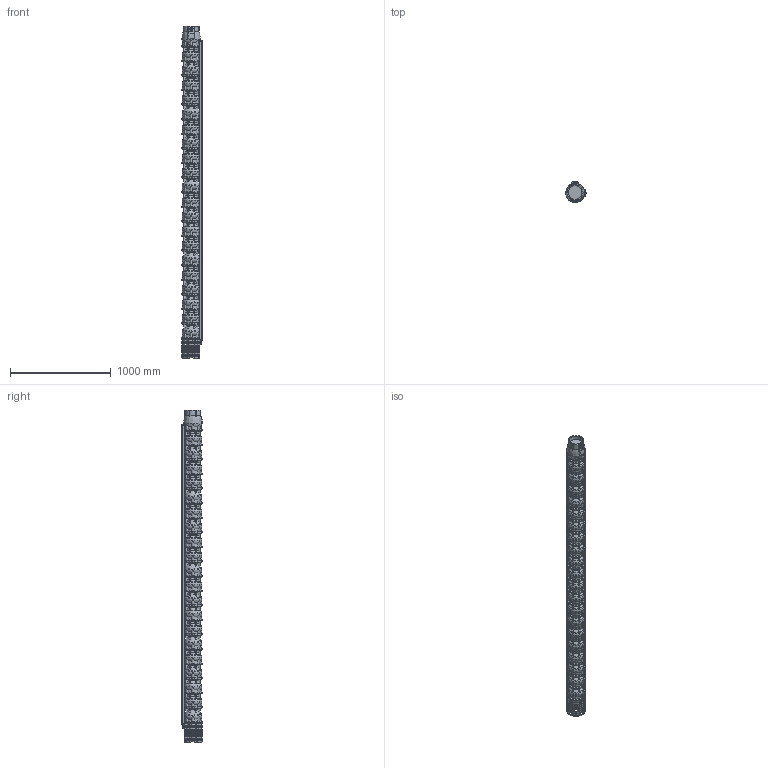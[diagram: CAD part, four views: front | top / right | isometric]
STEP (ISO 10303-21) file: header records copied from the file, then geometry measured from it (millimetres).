
FILE_DESCRIPTION(/* description */ ('Unknown'),/* implementation_level */ '2;1');
FILE_NAME(/* name */ 'VSI134-20_WR_M8-50_SLE',/* time_stamp */ '2023-09-14T14:51:32+02:00',/* author */ ('Unknown'),/* organization */ ('Unknown'),/* preprocessor_version */ 'ST-DEVELOPER v18.102',/* originating_system */ 'Solid Edge',/* authorisation */ 'Unknown');
FILE_SCHEMA (('AUTOMOTIVE_DESIGN {1 0 10303 214 3 1 1}'));
Products named in the file (11): VSI134-20_WR_M8-50_SLE; VSI134_testata; VSI134_diffusore; VSI134_supporto_8×8; VSI134_terminale_top_copricavo_basso; VSI134_terminale_bottom_copricavo_basso; LOW 134-20; M5X8_UNI7687; VSI134_filtro_A; VSI134_filtro_B; VSI134_giunto_8×8
Assembly tree (43 placements, depth 2):
  VSI134-20_WR_M8-50_SLE
    VSI134_testata
    VSI134_diffusore  x20
    VSI134_supporto_8×8
    VSI134_terminale_top_copricavo_basso  x2
    VSI134_terminale_bottom_copricavo_basso  x2
    LOW 134-20  x2
    M5X8_UNI7687  x12
    VSI134_filtro_A
    VSI134_filtro_B
    VSI134_giunto_8×8
Bounding box: 201.57 x 202.09 x 3297 mm (x, y, z)
Volume: 61945740.7 mm3; surface area: 5001931.9 mm2
Topology: 82 solids, 84 shells, 5897 faces, 16641 edges, 11116 vertices
Faces by surface type: plane 4110, torus 916, cylinder 751, cone 75, bspline 31, sphere 14
Full cylindrical faces by diameter (mm): 2.4 x2, 3 x2, 4.2 x16, 5 x12, 5.5 x8, 26 x1, 44 x1, 69 x1, 74 x1, 98 x1, 135.472 x1, 157 x1, 182 x21
Entity records: 85657 total; most frequent: CARTESIAN_POINT 18376, ORIENTED_EDGE 14056, DIRECTION 13516, EDGE_CURVE 7028, VERTEX_POINT 4730, AXIS2_PLACEMENT_3D 4609, LINE 4298, VECTOR 4298
